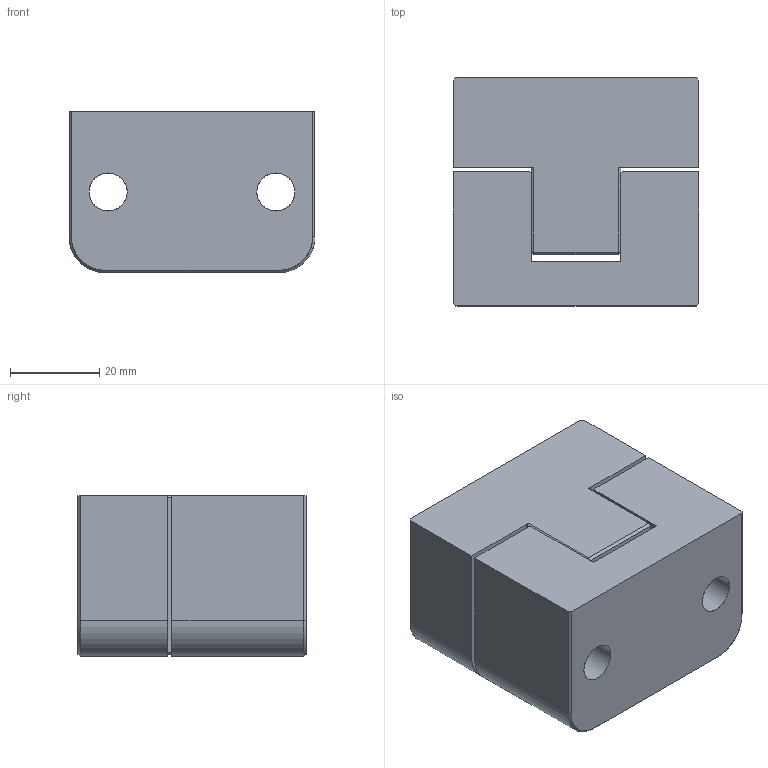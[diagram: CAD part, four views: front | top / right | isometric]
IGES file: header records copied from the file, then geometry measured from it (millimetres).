
Start section: START RECORD GO HERE.
Global section: file name: CL505055.igs; native system: DASSAULT SYSTEMES CATIA V5 R20 - www.3ds.com; preprocessor: CATIA Version 5 Release 20 ; author: Utente; organization: NB04-ASUS; date: 20200419.212101; units: millimetre
Bounding box: 55 x 51 x 36 mm (x, y, z)
Surface area: 23236.4 mm2 (no closed solid volume)
Topology: 0 solids, 0 shells, 212 faces, 900 edges, 896 vertices
Faces by surface type: revolution 128, plane 84
